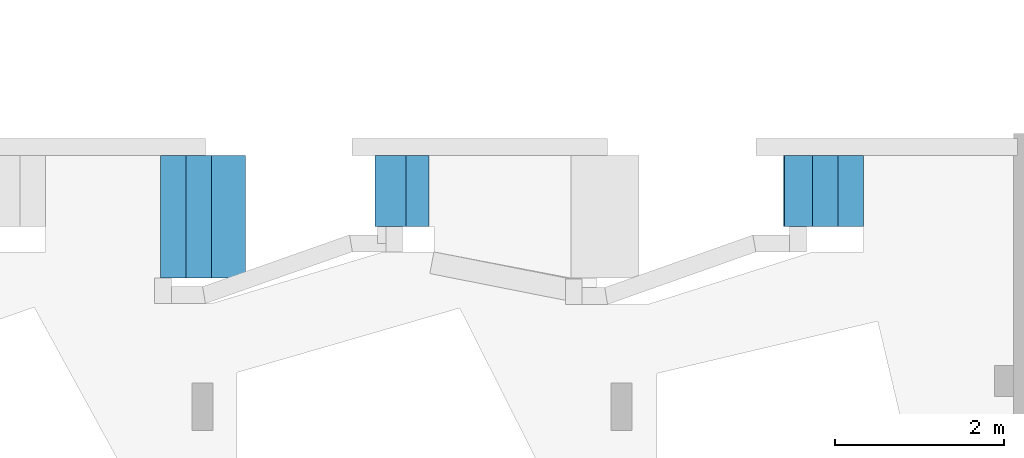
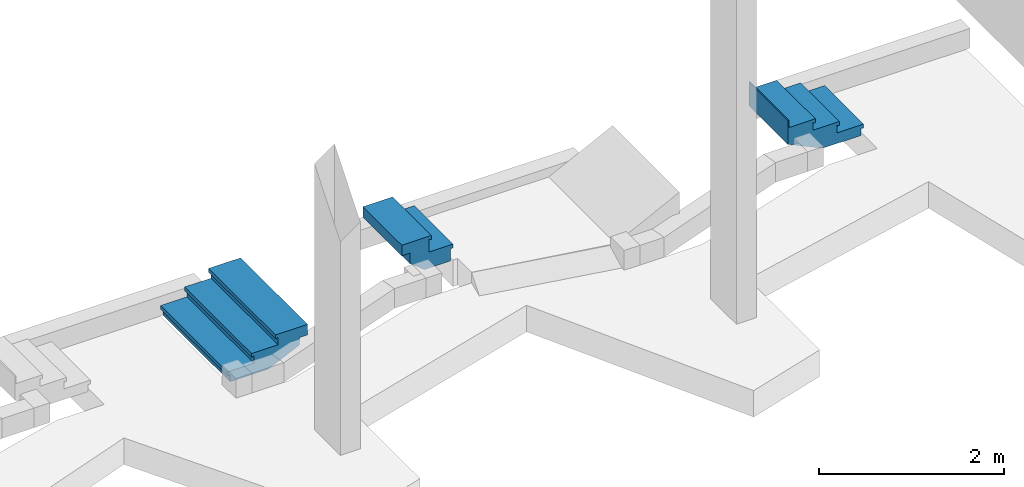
# One storey, part 8 of 8: 3 stair flights, 3 elements without a shape of their own.
"""IFC4 building model written with IfcOpenShell, lengths in metres."""

from ifc_helpers import new_model, entity, si_unit, converted_unit, derived_unit, direction, frame, origin, place, context, subcontext, project, spatial, polygons, material, constituent, constituent_set, type_object, element, aggregate, save


model = new_model("IFC4")

# Units and contexts
model_context = context("Model", 3, precision=1e-05, world=origin(), true_north=direction((6.123031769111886e-17, 1.0)))
body_context = subcontext(model_context, "Body", "Model", "MODEL_VIEW")
ifc_project = project(units=[si_unit("LENGTHUNIT", "METRE"), si_unit("AREAUNIT", "SQUARE_METRE"), si_unit("VOLUMEUNIT", "CUBIC_METRE"), converted_unit("PLANEANGLEUNIT", "DEGREE", entity("IfcRatioMeasure", 0.017453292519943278), si_unit("PLANEANGLEUNIT", "RADIAN"), dimensions=[0, 0, 0, 0, 0, 0, 0]), si_unit("MASSUNIT", "GRAM", prefix="KILO"), derived_unit("MASSDENSITYUNIT", [(si_unit("MASSUNIT", "GRAM", prefix="KILO"), 1), (si_unit("LENGTHUNIT", "METRE"), -3)]), derived_unit("MOMENTOFINERTIAUNIT", [(si_unit("LENGTHUNIT", "METRE"), 4)]), si_unit("TIMEUNIT", "SECOND"), si_unit("FREQUENCYUNIT", "HERTZ"), si_unit("THERMODYNAMICTEMPERATUREUNIT", "DEGREE_CELSIUS"), derived_unit("THERMALTRANSMITTANCEUNIT", [(si_unit("MASSUNIT", "GRAM", prefix="KILO"), 1), (si_unit("THERMODYNAMICTEMPERATUREUNIT", "KELVIN"), -1), (si_unit("TIMEUNIT", "SECOND"), -3)]), derived_unit("VOLUMETRICFLOWRATEUNIT", [(si_unit("LENGTHUNIT", "METRE"), 3), (si_unit("TIMEUNIT", "SECOND"), -1)]), derived_unit("MASSFLOWRATEUNIT", [(si_unit("MASSUNIT", "GRAM", prefix="KILO"), 1), (si_unit("TIMEUNIT", "SECOND"), -1)]), derived_unit("ROTATIONALFREQUENCYUNIT", [(si_unit("TIMEUNIT", "SECOND"), -1)]), si_unit("ELECTRICCURRENTUNIT", "AMPERE"), si_unit("ELECTRICVOLTAGEUNIT", "VOLT"), si_unit("POWERUNIT", "WATT"), si_unit("FORCEUNIT", "NEWTON", prefix="KILO"), si_unit("ILLUMINANCEUNIT", "LUX"), si_unit("LUMINOUSFLUXUNIT", "LUMEN"), si_unit("LUMINOUSINTENSITYUNIT", "CANDELA"), derived_unit("USERDEFINED", [(si_unit("MASSUNIT", "GRAM", prefix="KILO"), -1), (si_unit("LENGTHUNIT", "METRE"), -2), (si_unit("TIMEUNIT", "SECOND"), 3), (si_unit("LUMINOUSFLUXUNIT", "LUMEN"), 1)]), derived_unit("SOUNDPOWERUNIT", [(si_unit("MASSUNIT", "GRAM", prefix="KILO"), 1), (si_unit("LENGTHUNIT", "METRE"), 2), (si_unit("TIMEUNIT", "SECOND"), -3)]), derived_unit("SOUNDPRESSUREUNIT", [(si_unit("MASSUNIT", "GRAM", prefix="KILO"), 1), (si_unit("LENGTHUNIT", "METRE"), -1), (si_unit("TIMEUNIT", "SECOND"), -2)]), derived_unit("LINEARVELOCITYUNIT", [(si_unit("LENGTHUNIT", "METRE"), 1), (si_unit("TIMEUNIT", "SECOND"), -1)]), si_unit("PRESSUREUNIT", "PASCAL"), derived_unit("USERDEFINED", [(si_unit("LENGTHUNIT", "METRE"), -2), (si_unit("MASSUNIT", "GRAM", prefix="KILO"), 1), (si_unit("TIMEUNIT", "SECOND"), -2)]), derived_unit("LINEARFORCEUNIT", [(si_unit("MASSUNIT", "GRAM", prefix="KILO"), 1), (si_unit("LENGTHUNIT", "METRE"), 1), (si_unit("TIMEUNIT", "SECOND"), -2), (si_unit("LENGTHUNIT", "METRE"), -1)]), derived_unit("PLANARFORCEUNIT", [(si_unit("MASSUNIT", "GRAM", prefix="KILO"), 1), (si_unit("LENGTHUNIT", "METRE"), 1), (si_unit("TIMEUNIT", "SECOND"), -2), (si_unit("LENGTHUNIT", "METRE"), -2)])], contexts=[model_context])

# Site, building, storey
site_placement = place(None, origin())
site = spatial("IfcSite", under=ifc_project, at=site_placement, Name="Superficie", CompositionType="ELEMENT")
building_placement = place(site_placement, origin())
building = spatial("IfcBuilding", under=site, at=building_placement, CompositionType="ELEMENT")
storey_placement = place(building_placement, frame((0.0, 0.0, -0.5599999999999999)))
storey = spatial("IfcBuildingStorey", under=building, at=storey_placement, Name="Nivel -1", CompositionType="ELEMENT", Elevation=-0.5599999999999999)

# Stair, stair flight
stair_type_1 = type_object("IfcStairType", Name="Escalera prefabricada:Escalera prefabricada", PredefinedType="STRAIGHT_RUN_STAIR")
stair_1_placement = place(storey_placement, origin())
stair_1 = element("IfcStair", 1, at=stair_1_placement, inside=storey, type_object=stair_type_1, Name="Escalera prefabricada:Escalera", ObjectType="Escalera prefabricada:Escalera prefabricada", PredefinedType="STRAIGHT_RUN_STAIR")
ifc_material_1 = material(Name="Cerámica blanca", Category="Cerámica")
ifc_constituent_1 = constituent(ifc_material_1, Name="Cerámica blanca", Category="Cerámica")
ifc_material_2 = material(Name="Hormigón", Category="Hormigón")
ifc_constituent_2 = constituent(ifc_material_2, Name="Hormigón", Category="Hormigón")
ifc_constituent_set_1 = constituent_set(constituents=[ifc_constituent_1, ifc_constituent_2], Name="MaterialConstituentSet")
stair_flight_type_1 = type_object("IfcStairFlightType", Name="Tramo monolítico:Huella 40 mm Mamperlán 30 mm Contrahuella 15 mm", PredefinedType="STRAIGHT")
stair_flight_1_placement = place(stair_1_placement, frame((17.871799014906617, -7.28417071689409, 0.0)))
stair_flight_1 = element("IfcStairFlight", 2, at=stair_flight_1_placement, type_object=stair_flight_type_1, material=ifc_constituent_set_1, Name="Escalera prefabricada:Escalera:175728 Run 1", ObjectType="Tramo monolítico:Huella 40 mm Mamperlán 30 mm Contrahuella 15 mm", PredefinedType="STRAIGHT", context=body_context, shape_type="Tessellation", body=[
    polygons([(0.945000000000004, 0.8399999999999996, 0.08999999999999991), (0.945000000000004, 0.8399999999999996, 0.13999999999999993), (0.945000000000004, 1.0828671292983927e-15, 0.13999999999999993), (0.945000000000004, 1.0828671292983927e-15, 0.08999999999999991), (0.9220000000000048, 0.8399999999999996, 0.08999999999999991), (0.9220000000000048, 1.0828671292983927e-15, 0.08999999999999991), (0.9220000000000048, 0.8399999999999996, 0.1), (0.9220000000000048, 1.0828671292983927e-15, 0.1), (0.6000000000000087, 0.8400000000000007, 0.13999999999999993), (0.6000000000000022, 1.0828671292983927e-15, 0.13999999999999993), (0.6000000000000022, 1.0828671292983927e-15, 0.1), (0.6000000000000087, 0.8400000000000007, 0.1)], [[[1, 2, 3, 4]], [[5, 1, 4, 6]], [[7, 5, 6, 8]], [[3, 2, 9, 10]], [[11, 12, 7, 8]], [[3, 10, 11, 8, 6, 4]], [[9, 2, 1, 5, 7, 12]], [[10, 9, 12, 11]]], closed=True),
    polygons([(0.9150000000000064, 0.8399999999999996, 0.1), (0.9150000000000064, 0.8399999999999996, 0.0), (0.9000000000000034, 0.8399999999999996, 0.0), (0.9000000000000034, 0.8399999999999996, 0.1), (0.9150000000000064, 1.0828671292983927e-15, 0.1), (0.9000000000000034, 1.0828671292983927e-15, 0.1), (0.9000000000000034, 1.0828671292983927e-15, 0.0), (0.9150000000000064, 1.0828671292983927e-15, 0.0)], [[[1, 2, 3, 4]], [[5, 6, 7, 8]], [[2, 1, 5, 8]], [[3, 2, 8, 7]], [[4, 3, 7, 6]], [[1, 4, 6, 5]]], closed=True),
    polygons([(0.6150000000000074, 0.8400000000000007, 0.24), (0.6150000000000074, 0.8400000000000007, 0.13999999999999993), (0.6000000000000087, 0.8400000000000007, 0.13999999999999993), (0.6000000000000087, 0.8400000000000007, 0.24), (0.6150000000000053, 1.0828671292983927e-15, 0.24), (0.6000000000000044, 1.0828671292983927e-15, 0.24), (0.6000000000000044, 1.0828671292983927e-15, 0.13999999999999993), (0.6150000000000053, 1.0828671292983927e-15, 0.13999999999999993)], [[[1, 2, 3, 4]], [[5, 6, 7, 8]], [[2, 1, 5, 8]], [[3, 2, 8, 7]], [[4, 3, 7, 6]], [[1, 4, 6, 5]]], closed=True),
    polygons([(0.6450000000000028, 1.0828671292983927e-15, 0.27999999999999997), (0.6450000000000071, 0.8400000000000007, 0.27999999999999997), (0.3000000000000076, 0.8400000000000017, 0.28), (0.3000000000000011, 2.1657342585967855e-15, 0.28), (0.3000000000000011, 2.1657342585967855e-15, 0.24), (0.3000000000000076, 0.8400000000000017, 0.24), (0.622000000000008, 0.8400000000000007, 0.24), (0.6220000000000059, 1.0828671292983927e-15, 0.24), (0.6220000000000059, 1.0828671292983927e-15, 0.22999999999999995), (0.6450000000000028, 1.0828671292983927e-15, 0.22999999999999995), (0.6450000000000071, 0.8400000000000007, 0.22999999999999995), (0.622000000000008, 0.8400000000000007, 0.22999999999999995)], [[[1, 2, 3, 4]], [[5, 6, 7, 8]], [[1, 4, 5, 8, 9, 10]], [[3, 2, 11, 12, 7, 6]], [[4, 3, 6, 5]], [[11, 2, 1, 10]], [[12, 11, 10, 9]], [[7, 12, 9, 8]]], closed=True),
    polygons([(0.3150000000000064, 0.8400000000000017, 0.37999999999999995), (0.3150000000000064, 0.8400000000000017, 0.27999999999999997), (0.3000000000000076, 0.8400000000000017, 0.27999999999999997), (0.3000000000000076, 0.8400000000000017, 0.37999999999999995), (0.3150000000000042, 2.1657342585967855e-15, 0.37999999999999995), (0.30000000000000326, 2.1657342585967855e-15, 0.37999999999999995), (0.30000000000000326, 2.1657342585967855e-15, 0.27999999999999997), (0.3150000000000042, 2.1657342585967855e-15, 0.27999999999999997)], [[[1, 2, 3, 4]], [[5, 6, 7, 8]], [[2, 1, 5, 8]], [[3, 2, 8, 7]], [[4, 3, 7, 6]], [[1, 4, 6, 5]]], closed=True),
    polygons([(0.015000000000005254, 0.8400000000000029, 0.5199999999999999), (0.015000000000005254, 0.8400000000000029, 0.41999999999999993), (6.497202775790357e-15, 0.8400000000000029, 0.41999999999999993), (6.497202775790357e-15, 0.8400000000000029, 0.5199999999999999), (0.015000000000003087, 3.2486013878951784e-15, 0.5199999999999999), (2.1657342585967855e-15, 3.2486013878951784e-15, 0.5199999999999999), (2.1657342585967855e-15, 3.2486013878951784e-15, 0.41999999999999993), (0.015000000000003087, 3.2486013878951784e-15, 0.41999999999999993)], [[[1, 2, 3, 4]], [[5, 6, 7, 8]], [[2, 1, 5, 8]], [[3, 2, 8, 7]], [[4, 3, 7, 6]], [[1, 4, 6, 5]]], closed=True),
    polygons([(0.3450000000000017, 2.1657342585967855e-15, 0.41999999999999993), (0.345000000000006, 0.8400000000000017, 0.41999999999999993), (6.497202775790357e-15, 0.8400000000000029, 0.42000000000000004), (0.0, 3.2486013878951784e-15, 0.42000000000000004), (0.0, 3.2486013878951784e-15, 0.37999999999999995), (6.497202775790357e-15, 0.8400000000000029, 0.37999999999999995), (0.32200000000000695, 0.8400000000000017, 0.37999999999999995), (0.3220000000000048, 2.1657342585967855e-15, 0.37999999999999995), (0.3220000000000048, 2.1657342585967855e-15, 0.36999999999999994), (0.3450000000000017, 2.1657342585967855e-15, 0.36999999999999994), (0.345000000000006, 0.8400000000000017, 0.36999999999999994), (0.32200000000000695, 0.8400000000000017, 0.36999999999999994)], [[[1, 2, 3, 4]], [[5, 6, 7, 8]], [[1, 4, 5, 8, 9, 10]], [[3, 2, 11, 12, 7, 6]], [[4, 3, 6, 5]], [[11, 2, 1, 10]], [[12, 11, 10, 9]], [[7, 12, 9, 8]]], closed=True),
    polygons([(0.6000000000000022, 1.0828671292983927e-15, 0.1), (0.9000000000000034, 1.0828671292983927e-15, 0.1), (0.9000000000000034, 0.8399999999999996, 0.1), (0.6000000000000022, 0.8400000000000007, 0.1), (0.6000000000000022, 1.0828671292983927e-15, 0.0), (0.9000000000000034, 1.0828671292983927e-15, 0.0), (0.9000000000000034, 0.8399999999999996, 0.0), (0.6000000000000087, 0.8400000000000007, 0.0), (0.3000000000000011, 2.1657342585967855e-15, 0.24), (0.6000000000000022, 1.0828671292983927e-15, 0.24), (0.6000000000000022, 0.8400000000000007, 0.24), (0.3000000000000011, 0.8400000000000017, 0.24), (0.3000000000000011, 2.1657342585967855e-15, 0.06343524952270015), (0.43593267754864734, 2.1657342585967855e-15, 2.0303758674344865e-16), (0.43593267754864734, 0.8400000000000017, 2.0303758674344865e-16), (0.3000000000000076, 0.8400000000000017, 0.06343524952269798), (0.0, 3.2486013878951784e-15, 0.20343524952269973), (6.497202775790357e-15, 0.8400000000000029, 0.20343524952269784), (0.0, 3.2486013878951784e-15, 0.37999999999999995), (0.3000000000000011, 2.1657342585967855e-15, 0.37999999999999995), (0.3000000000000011, 0.8400000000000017, 0.37999999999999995), (6.497202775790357e-15, 0.8400000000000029, 0.37999999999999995)], [[[1, 2, 3, 4]], [[2, 1, 5, 6]], [[3, 2, 6, 7]], [[4, 3, 7, 8]], [[9, 10, 11, 12]], [[5, 1, 10, 9, 13, 14]], [[1, 4, 11, 10]], [[4, 8, 15, 16, 12, 11]], [[6, 5, 14, 15, 8, 7]], [[15, 14, 13, 17, 18, 16]], [[19, 20, 21, 22]], [[20, 19, 17, 13, 9]], [[9, 12, 21, 20]], [[22, 21, 12, 16, 18]], [[19, 22, 18, 17]]], closed=True),
])
aggregate(stair_1, [stair_flight_1])

stair_type_2 = type_object("IfcStairType", Name="Escalera prefabricada:Escalera prefabricada", PredefinedType="STRAIGHT_RUN_STAIR")
stair_2_placement = place(storey_placement, origin())
stair_2 = element("IfcStair", 3, at=stair_2_placement, inside=storey, type_object=stair_type_2, Name="Escalera prefabricada:Escalera", ObjectType="Escalera prefabricada:Escalera prefabricada", PredefinedType="STRAIGHT_RUN_STAIR")
ifc_constituent_3 = constituent(ifc_material_1, Name="Cerámica blanca", Category="Cerámica")
ifc_constituent_4 = constituent(ifc_material_2, Name="Hormigón", Category="Hormigón")
ifc_constituent_set_2 = constituent_set(constituents=[ifc_constituent_3, ifc_constituent_4], Name="MaterialConstituentSet")
stair_flight_type_2 = type_object("IfcStairFlightType", Name="Tramo monolítico:Huella 40 mm Mamperlán 30 mm Contrahuella 15 mm", PredefinedType="STRAIGHT")
stair_flight_2_placement = place(stair_2_placement, frame((10.516799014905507, -7.89417071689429, 0.0)))
stair_flight_2 = element("IfcStairFlight", 4, at=stair_flight_2_placement, type_object=stair_flight_type_2, material=ifc_constituent_set_2, Name="Escalera prefabricada:Escalera:176165 Run 1", ObjectType="Tramo monolítico:Huella 40 mm Mamperlán 30 mm Contrahuella 15 mm", PredefinedType="STRAIGHT", context=body_context, shape_type="Tessellation", body=[
    polygons([(-2.1657342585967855e-15, 3.2486013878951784e-15, 0.08999999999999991), (-2.1657342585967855e-15, 3.2486013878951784e-15, 0.13999999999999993), (-2.1657342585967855e-15, 1.450000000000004, 0.13999999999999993), (-2.1657342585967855e-15, 1.450000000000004, 0.08999999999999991), (0.022999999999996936, 3.2486013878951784e-15, 0.08999999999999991), (0.022999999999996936, 1.450000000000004, 0.08999999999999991), (0.022999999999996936, 3.2486013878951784e-15, 0.1), (0.022999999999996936, 1.450000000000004, 0.1), (0.3449999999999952, 3.2486013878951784e-15, 0.13999999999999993), (0.34499999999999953, 1.4500000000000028, 0.13999999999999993), (0.34499999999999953, 1.4500000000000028, 0.1), (0.3449999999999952, 3.2486013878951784e-15, 0.1)], [[[1, 2, 3, 4]], [[5, 1, 4, 6]], [[7, 5, 6, 8]], [[3, 2, 9, 10]], [[11, 12, 7, 8]], [[3, 10, 11, 8, 6, 4]], [[9, 2, 1, 5, 7, 12]], [[10, 9, 12, 11]]], closed=True),
    polygons([(0.02999999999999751, 3.2486013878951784e-15, 0.1), (0.02999999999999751, 3.2486013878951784e-15, 0.0), (0.04499999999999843, 3.2486013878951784e-15, 0.0), (0.04499999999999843, 3.2486013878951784e-15, 0.1), (0.02999999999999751, 1.450000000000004, 0.1), (0.04499999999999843, 1.450000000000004, 0.1), (0.04499999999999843, 1.450000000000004, 0.0), (0.02999999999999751, 1.450000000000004, 0.0)], [[[1, 2, 3, 4]], [[5, 6, 7, 8]], [[2, 1, 5, 8]], [[3, 2, 8, 7]], [[4, 3, 7, 6]], [[1, 4, 6, 5]]], closed=True),
    polygons([(0.3299999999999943, 3.2486013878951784e-15, 0.24), (0.3299999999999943, 3.2486013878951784e-15, 0.13999999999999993), (0.3449999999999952, 3.2486013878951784e-15, 0.13999999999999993), (0.3449999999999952, 3.2486013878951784e-15, 0.24), (0.32999999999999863, 1.4500000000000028, 0.24), (0.34499999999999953, 1.4500000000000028, 0.24), (0.34499999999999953, 1.4500000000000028, 0.13999999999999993), (0.32999999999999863, 1.4500000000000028, 0.13999999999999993)], [[[1, 2, 3, 4]], [[5, 6, 7, 8]], [[2, 1, 5, 8]], [[3, 2, 8, 7]], [[4, 3, 7, 6]], [[1, 4, 6, 5]]], closed=True),
    polygons([(0.29999999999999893, 1.4500000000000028, 0.27999999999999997), (0.2999999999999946, 3.2486013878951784e-15, 0.27999999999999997), (0.6449999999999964, 2.1657342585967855e-15, 0.28), (0.6450000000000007, 1.4500000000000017, 0.28), (0.6450000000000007, 1.4500000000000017, 0.24), (0.6449999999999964, 2.1657342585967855e-15, 0.24), (0.32299999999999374, 3.2486013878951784e-15, 0.24), (0.32299999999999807, 1.4500000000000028, 0.24), (0.32299999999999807, 1.4500000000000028, 0.22999999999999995), (0.29999999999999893, 1.4500000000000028, 0.22999999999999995), (0.2999999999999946, 3.2486013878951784e-15, 0.22999999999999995), (0.32299999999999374, 3.2486013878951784e-15, 0.22999999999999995)], [[[1, 2, 3, 4]], [[5, 6, 7, 8]], [[1, 4, 5, 8, 9, 10]], [[3, 2, 11, 12, 7, 6]], [[4, 3, 6, 5]], [[11, 2, 1, 10]], [[12, 11, 10, 9]], [[7, 12, 9, 8]]], closed=True),
    polygons([(0.6299999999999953, 2.1657342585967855e-15, 0.37999999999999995), (0.6299999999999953, 2.1657342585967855e-15, 0.27999999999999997), (0.6449999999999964, 2.1657342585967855e-15, 0.27999999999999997), (0.6449999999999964, 2.1657342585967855e-15, 0.37999999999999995), (0.6299999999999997, 1.4500000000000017, 0.37999999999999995), (0.6450000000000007, 1.4500000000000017, 0.37999999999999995), (0.6450000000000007, 1.4500000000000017, 0.27999999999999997), (0.6299999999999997, 1.4500000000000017, 0.27999999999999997)], [[[1, 2, 3, 4]], [[5, 6, 7, 8]], [[2, 1, 5, 8]], [[3, 2, 8, 7]], [[4, 3, 7, 6]], [[1, 4, 6, 5]]], closed=True),
    polygons([(0.6000000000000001, 1.4500000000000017, 0.41999999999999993), (0.5999999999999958, 2.1657342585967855e-15, 0.41999999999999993), (0.9999999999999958, 1.0828671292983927e-15, 0.42000000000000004), (1.0, 1.4500000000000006, 0.42000000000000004), (1.0, 1.4500000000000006, 0.37999999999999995), (0.9999999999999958, 1.0828671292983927e-15, 0.37999999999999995), (0.6229999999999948, 2.1657342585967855e-15, 0.37999999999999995), (0.6229999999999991, 1.4500000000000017, 0.37999999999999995), (0.6229999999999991, 1.4500000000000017, 0.36999999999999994), (0.6000000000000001, 1.4500000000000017, 0.36999999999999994), (0.5999999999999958, 2.1657342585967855e-15, 0.36999999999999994), (0.6229999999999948, 2.1657342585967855e-15, 0.36999999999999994)], [[[1, 2, 3, 4]], [[5, 6, 7, 8]], [[1, 4, 5, 8, 9, 10]], [[3, 2, 11, 12, 7, 6]], [[4, 3, 6, 5]], [[11, 2, 1, 10]], [[12, 11, 10, 9]], [[7, 12, 9, 8]]], closed=True),
    polygons([(0.34499999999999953, 1.4500000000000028, 0.1), (0.04499999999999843, 1.450000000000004, 0.1), (0.04499999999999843, 3.2486013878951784e-15, 0.1), (0.34499999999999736, 3.2486013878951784e-15, 0.1), (0.34499999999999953, 1.4500000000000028, 0.0), (0.04499999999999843, 1.450000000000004, 0.0), (0.04499999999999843, 3.2486013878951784e-15, 0.0), (0.3449999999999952, 3.2486013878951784e-15, 0.0), (0.5090673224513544, 1.4500000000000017, 2.0303758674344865e-16), (0.5090673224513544, 3.2486013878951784e-15, 2.0303758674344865e-16), (0.6450000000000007, 1.4500000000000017, 0.06343524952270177), (0.899999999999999, 1.4500000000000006, 0.18243524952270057), (0.8999999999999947, 1.0828671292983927e-15, 0.1824352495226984), (0.6449999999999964, 2.1657342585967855e-15, 0.0634352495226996), (0.9999999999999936, 1.0828671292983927e-15, 0.2799999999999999), (0.8999999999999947, 1.0828671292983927e-15, 0.2799999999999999), (0.899999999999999, 1.4500000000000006, 0.2799999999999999), (0.9999999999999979, 1.4500000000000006, 0.2799999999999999), (0.9999999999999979, 1.4500000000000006, 0.37999999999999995), (0.9999999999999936, 1.0828671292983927e-15, 0.37999999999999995), (0.6450000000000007, 1.4500000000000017, 0.24), (0.34499999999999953, 1.4500000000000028, 0.24), (0.34499999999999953, 3.2486013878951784e-15, 0.24), (0.6449999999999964, 2.1657342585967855e-15, 0.24), (0.6450000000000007, 1.4500000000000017, 0.37999999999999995), (0.6449999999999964, 2.1657342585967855e-15, 0.37999999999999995)], [[[1, 2, 3, 4]], [[2, 1, 5, 6]], [[3, 2, 6, 7]], [[4, 3, 7, 8]], [[6, 5, 9, 10, 8, 7]], [[10, 9, 11, 12, 13, 14]], [[15, 16, 17, 18]], [[15, 18, 19, 20]], [[21, 22, 23, 24]], [[5, 1, 22, 21, 11, 9]], [[1, 4, 23, 22]], [[4, 8, 10, 14, 24, 23]], [[25, 26, 20, 19]], [[25, 19, 18, 17, 12, 11, 21]], [[21, 24, 26, 25]], [[20, 26, 24, 14, 13, 16, 15]], [[13, 12, 17, 16]]], closed=True),
])
aggregate(stair_2, [stair_flight_2])

stair_type_3 = type_object("IfcStairType", Name="Escalera prefabricada:Escalera prefabricada", PredefinedType="STRAIGHT_RUN_STAIR")
stair_3_placement = place(storey_placement, origin())
stair_3 = element("IfcStair", 5, at=stair_3_placement, inside=storey, type_object=stair_type_3, Name="Escalera prefabricada:Escalera", ObjectType="Escalera prefabricada:Escalera prefabricada", PredefinedType="STRAIGHT_RUN_STAIR")
ifc_constituent_5 = constituent(ifc_material_1, Name="Cerámica blanca", Category="Cerámica")
ifc_constituent_6 = constituent(ifc_material_2, Name="Hormigón", Category="Hormigón")
ifc_constituent_set_3 = constituent_set(constituents=[ifc_constituent_5, ifc_constituent_6], Name="MaterialConstituentSet")
stair_flight_type_3 = type_object("IfcStairFlightType", Name="Tramo monolítico:Huella 40 mm Mamperlán 30 mm Contrahuella 15 mm", PredefinedType="STRAIGHT")
stair_flight_3_placement = place(stair_3_placement, frame((13.046487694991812, -7.284155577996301, 0.0)))
stair_flight_3 = element("IfcStairFlight", 6, at=stair_flight_3_placement, type_object=stair_flight_type_3, material=ifc_constituent_set_3, Name="Escalera prefabricada:Escalera:177085 Run 1", ObjectType="Tramo monolítico:Huella 40 mm Mamperlán 30 mm Contrahuella 15 mm", PredefinedType="STRAIGHT", context=body_context, shape_type="Tessellation", body=[
    polygons([(0.6400000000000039, 0.8399999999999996, 0.29999999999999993), (0.6400000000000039, 0.8399999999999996, 0.34999999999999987), (0.6400000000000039, 0.0, 0.34999999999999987), (0.6400000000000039, 0.0, 0.29999999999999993), (0.617000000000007, 0.8399999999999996, 0.29999999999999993), (0.617000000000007, 0.0, 0.29999999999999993), (0.617000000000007, 0.8399999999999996, 0.30999999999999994), (0.617000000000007, 0.0, 0.30999999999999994), (0.32500000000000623, 0.8400000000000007, 0.34999999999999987), (0.32500000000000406, 0.0, 0.34999999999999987), (0.32500000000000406, 0.0, 0.30999999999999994), (0.32500000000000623, 0.8400000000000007, 0.30999999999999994)], [[[1, 2, 3, 4]], [[5, 1, 4, 6]], [[7, 5, 6, 8]], [[3, 2, 9, 10]], [[11, 12, 7, 8]], [[3, 10, 11, 8, 6, 4]], [[9, 2, 1, 5, 7, 12]], [[10, 9, 12, 11]]], closed=True),
    polygons([(0.6100000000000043, 0.8399999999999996, 0.30999999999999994), (0.6100000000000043, 0.8399999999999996, 0.13999999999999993), (0.5950000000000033, 0.8399999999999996, 0.13999999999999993), (0.5950000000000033, 0.8399999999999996, 0.30999999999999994), (0.6100000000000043, 0.0, 0.30999999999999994), (0.5950000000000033, 0.0, 0.30999999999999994), (0.5950000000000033, 0.0, 0.13999999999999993), (0.6100000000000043, 0.0, 0.13999999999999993)], [[[1, 2, 3, 4]], [[5, 6, 7, 8]], [[2, 1, 5, 8]], [[3, 2, 8, 7]], [[4, 3, 7, 6]], [[1, 4, 6, 5]]], closed=True),
    polygons([(0.340000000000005, 0.8400000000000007, 0.5199999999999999), (0.340000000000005, 0.8400000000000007, 0.34999999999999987), (0.32500000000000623, 0.8400000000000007, 0.34999999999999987), (0.32500000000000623, 0.8400000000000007, 0.5199999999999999), (0.34000000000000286, 0.0, 0.5199999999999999), (0.32500000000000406, 0.0, 0.5199999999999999), (0.32500000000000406, 0.0, 0.34999999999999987), (0.34000000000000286, 0.0, 0.34999999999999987)], [[[1, 2, 3, 4]], [[5, 6, 7, 8]], [[2, 1, 5, 8]], [[3, 2, 8, 7]], [[4, 3, 7, 6]], [[1, 4, 6, 5]]], closed=True),
    polygons([(0.37000000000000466, 0.0, 0.5599999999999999), (0.3700000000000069, 0.8400000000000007, 0.5599999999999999), (4.331468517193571e-15, 0.8400000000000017, 0.5599999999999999), (0.0, 2.1657342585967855e-15, 0.5599999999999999), (0.0, 2.1657342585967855e-15, 0.5199999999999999), (4.331468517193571e-15, 0.8400000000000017, 0.5199999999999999), (0.3470000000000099, 0.8400000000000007, 0.5199999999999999), (0.3470000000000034, 0.0, 0.5199999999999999), (0.3470000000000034, 0.0, 0.5099999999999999), (0.37000000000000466, 0.0, 0.5099999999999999), (0.3700000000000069, 0.8400000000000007, 0.5099999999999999), (0.34700000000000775, 0.8400000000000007, 0.5099999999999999)], [[[1, 2, 3, 4]], [[5, 6, 7, 8]], [[1, 4, 5, 8, 9, 10]], [[3, 2, 11, 12, 7, 6]], [[4, 3, 6, 5]], [[11, 2, 1, 10]], [[12, 11, 10, 9]], [[7, 12, 9, 8]]], closed=True),
    polygons([(0.3250000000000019, 1.0828671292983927e-15, 0.30999999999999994), (0.5950000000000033, 0.0, 0.30999999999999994), (0.5950000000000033, 0.8399999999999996, 0.30999999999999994), (0.32500000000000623, 0.8400000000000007, 0.30999999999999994), (0.32500000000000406, 0.0, 0.13999999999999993), (0.5950000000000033, 0.0, 0.13999999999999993), (0.5950000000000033, 0.8399999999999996, 0.13999999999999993), (0.32500000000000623, 0.8400000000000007, 0.13999999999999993), (0.28295990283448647, 2.1657342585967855e-15, 0.14000000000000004), (0.28295990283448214, 0.8400000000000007, 0.14000000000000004), (0.09999999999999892, 2.1657342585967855e-15, 0.282302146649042), (0.10000000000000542, 0.8400000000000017, 0.2823021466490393), (8.662937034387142e-15, 0.8400000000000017, 0.4199999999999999), (0.10000000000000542, 0.8400000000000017, 0.4199999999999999), (0.10000000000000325, 2.1657342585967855e-15, 0.4199999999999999), (2.1657342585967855e-15, 2.1657342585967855e-15, 0.4199999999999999), (2.1657342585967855e-15, 2.1657342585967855e-15, 0.5199999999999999), (8.662937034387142e-15, 0.8400000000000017, 0.5199999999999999), (0.32500000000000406, 0.0, 0.5199999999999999), (0.32500000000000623, 0.8400000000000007, 0.5199999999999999)], [[[1, 2, 3, 4]], [[2, 1, 5, 6]], [[3, 2, 6, 7]], [[4, 3, 7, 8]], [[6, 5, 9, 10, 8, 7]], [[10, 9, 11, 12]], [[13, 14, 15, 16]], [[13, 16, 17, 18]], [[19, 20, 18, 17]], [[5, 1, 19, 17, 16, 15, 11, 9]], [[1, 4, 20, 19]], [[4, 8, 10, 12, 14, 13, 18, 20]], [[12, 11, 15, 14]]], closed=True),
])
aggregate(stair_3, [stair_flight_3])

save(model, "model.ifc")
